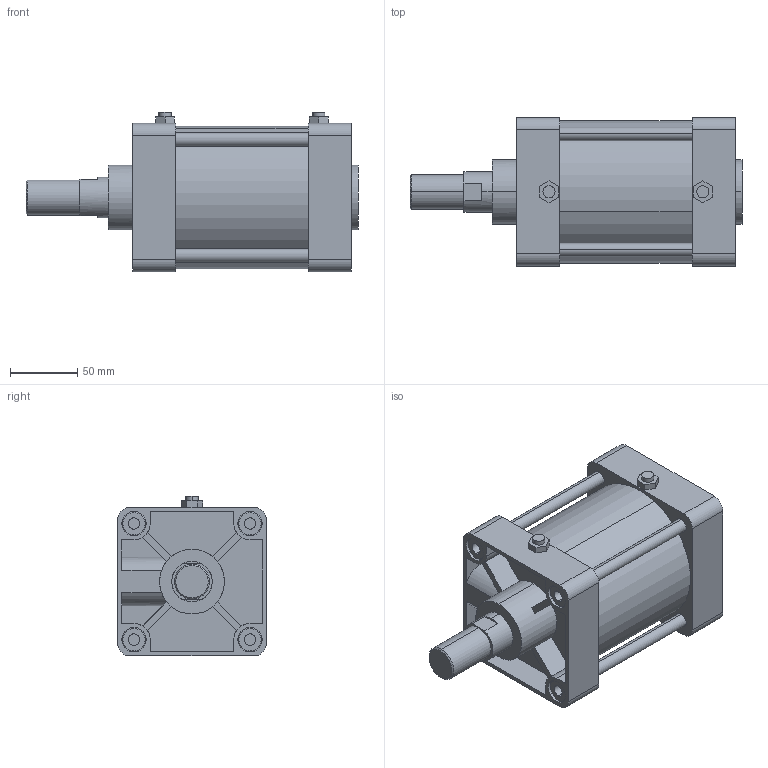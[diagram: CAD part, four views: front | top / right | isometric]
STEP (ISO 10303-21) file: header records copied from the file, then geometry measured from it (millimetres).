
FILE_DESCRIPTION (( 'STEP AP203' ), '1' );
FILE_NAME ('KG2-100-50-N.STEP', '2016-04-01T08:23:56', ( '' ), ( '' ), 'SwSTEP 2.0', 'SolidWorks 2014', '' );
FILE_SCHEMA (( 'CONFIG_CONTROL_DESIGN' ));
Length unit declared in the file: millimetre
Products named in the file (6): KG2-100-50-N; KG2-100-After; KGLH2-100-50
Assembly tree (15 placements, depth 2):
  KG2-100-50-N
    KG2-100-After
    KGLH2-100-50
    (unnamed)
    (unnamed)  x4
    (unnamed)  x8
Bounding box: 246 x 110 x 118.3 mm (x, y, z)
Volume: 1494946.1 mm3; surface area: 205775.6 mm2
Topology: 15 solids, 15 shells, 305 faces, 717 edges, 458 vertices
Faces by surface type: plane 132, cylinder 115, torus 32, cone 26
Entity records: 7360 total; most frequent: CARTESIAN_POINT 1188, DIRECTION 1171, ORIENTED_EDGE 1054, EDGE_CURVE 527, AXIS2_PLACEMENT_3D 433, VERTEX_POINT 348, VECTOR 305, LINE 305
